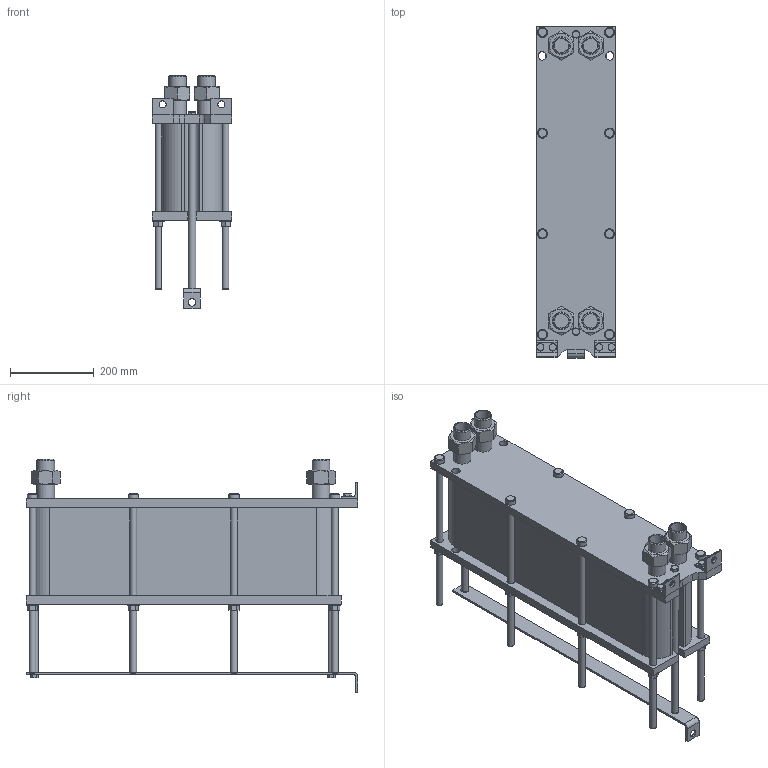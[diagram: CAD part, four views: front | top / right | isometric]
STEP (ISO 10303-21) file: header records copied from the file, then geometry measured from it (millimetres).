
FILE_DESCRIPTION(/* description */ (''),/* implementation_level */ '2;1');
FILE_NAME(/* name */ 'C:\Users\zhuro\Desktop\ENCO\TO\ЭН-008\ЭН-0,5-008-68-1.stp',/* time_stamp */ '2022-06-06T10:51:17+03:00',/* author */ ('zhuro'),/* organization */ (''),/* preprocessor_version */ 'ST-DEVELOPER v18.1',/* originating_system */ 'Autodesk Inventor 2022',/* authorisation */ '');
FILE_SCHEMA (('AUTOMOTIVE_DESIGN { 1 0 10303 214 3 1 1 }'));
Length unit declared in the file: millimetre
Products named in the file (1): ЭН-0,5-008-68-1
Bounding box: 190 x 790 x 555.4 mm (x, y, z)
Volume: 28324215.4 mm3; surface area: 1750842.2 mm2
Topology: 40 solids, 40 shells, 428 faces, 924 edges, 606 vertices
Faces by surface type: plane 273, cylinder 109, cone 40, torus 6
Full cylindrical faces by diameter (mm): 12 x6, 14 x2, 16 x20, 17 x8, 18 x19, 20 x5, 24 x8, 28 x8, 34.3 x8, 42.3 x8
Entity records: 15843 total; most frequent: CARTESIAN_POINT 5991, DIRECTION 1984, ORIENTED_EDGE 1848, EDGE_CURVE 924, AXIS2_PLACEMENT_3D 715, VERTEX_POINT 606, LINE 554, VECTOR 554
